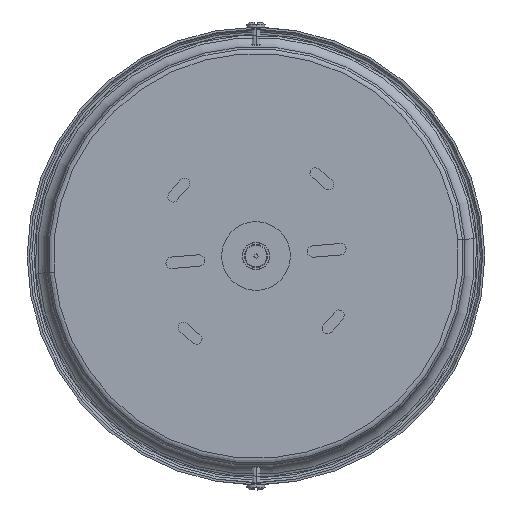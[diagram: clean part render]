
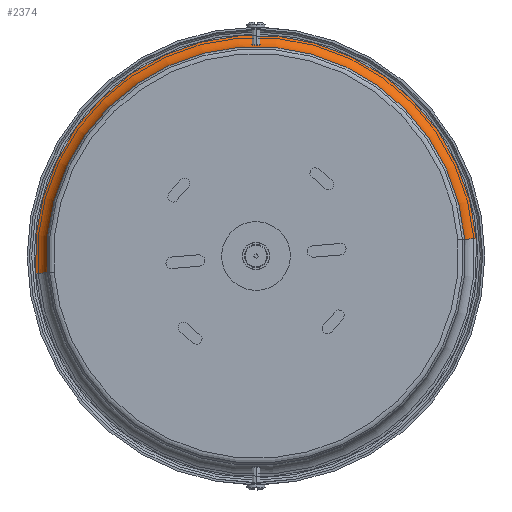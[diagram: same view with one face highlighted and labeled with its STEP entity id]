
A CAD part, front view. The second image highlights one B-rep face of the part: STEP entity #2374.
In plain terms, the highlighted toroidal (fillet/blend) face has major radius 98.9 mm and minor radius 7.4 mm.
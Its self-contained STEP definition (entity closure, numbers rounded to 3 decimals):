
#49 = VERTEX_POINT ( 'NONE', #13609 ) ;
#171 = CIRCLE ( 'NONE', #3427, 7.4 ) ;
#1500 = CARTESIAN_POINT ( 'NONE',  ( 98.9, 0., -8. ) ) ;
#1599 = DIRECTION ( 'NONE',  ( 0., -1., 0. ) ) ;
#2280 = EDGE_CURVE ( 'NONE', #2980, #49, #14016, .T. ) ;
#2374 = ADVANCED_FACE ( 'NONE', ( #13462 ), #6383, .F. ) ;
#2980 = VERTEX_POINT ( 'NONE', #3481 ) ;
#3038 = DIRECTION ( 'NONE',  ( 0., 0., 1. ) ) ;
#3413 = EDGE_CURVE ( 'NONE', #5212, #2980, #171, .T. ) ;
#3427 = AXIS2_PLACEMENT_3D ( 'NONE', #3922, #12045, #13215 ) ;
#3481 = CARTESIAN_POINT ( 'NONE',  ( -91.5, 0., -8. ) ) ;
#3922 = CARTESIAN_POINT ( 'NONE',  ( -98.9, 0., -8. ) ) ;
#3927 = DIRECTION ( 'NONE',  ( 0., 0., -1. ) ) ;
#4161 = DIRECTION ( 'NONE',  ( 1., 0., 0. ) ) ;
#4595 = DIRECTION ( 'NONE',  ( 1., 0., 0. ) ) ;
#4731 = EDGE_CURVE ( 'NONE', #12518, #49, #12124, .T. ) ;
#5212 = VERTEX_POINT ( 'NONE', #13911 ) ;
#5517 = ORIENTED_EDGE ( 'NONE', *, *, #3413, .T. ) ;
#6383 = TOROIDAL_SURFACE ( 'NONE', #7592, 98.9, 7.4 ) ;
#6750 = CARTESIAN_POINT ( 'NONE',  ( 96.5, 0., -1. ) ) ;
#6769 = DIRECTION ( 'NONE',  ( 0., 0., 1. ) ) ;
#7356 = EDGE_LOOP ( 'NONE', ( #14899, #5517, #13564, #8432 ) ) ;
#7592 = AXIS2_PLACEMENT_3D ( 'NONE', #13396, #12283, #7604 ) ;
#7604 = DIRECTION ( 'NONE',  ( 1., 0., 0. ) ) ;
#8296 = AXIS2_PLACEMENT_3D ( 'NONE', #10333, #6769, #4595 ) ;
#8432 = ORIENTED_EDGE ( 'NONE', *, *, #4731, .F. ) ;
#9063 = AXIS2_PLACEMENT_3D ( 'NONE', #12436, #3038, #4161 ) ;
#10333 = CARTESIAN_POINT ( 'NONE',  ( 0., 0., -1. ) ) ;
#11943 = EDGE_CURVE ( 'NONE', #5212, #12518, #13300, .T. ) ;
#12045 = DIRECTION ( 'NONE',  ( 0., 1., 0. ) ) ;
#12124 = CIRCLE ( 'NONE', #13937, 7.4 ) ;
#12283 = DIRECTION ( 'NONE',  ( 0., 0., 1. ) ) ;
#12436 = CARTESIAN_POINT ( 'NONE',  ( 0., 0., -8. ) ) ;
#12518 = VERTEX_POINT ( 'NONE', #6750 ) ;
#13215 = DIRECTION ( 'NONE',  ( -1., 0., 0. ) ) ;
#13300 = CIRCLE ( 'NONE', #8296, 96.5 ) ;
#13396 = CARTESIAN_POINT ( 'NONE',  ( 0., 0., -8. ) ) ;
#13462 = FACE_OUTER_BOUND ( 'NONE', #7356, .T. ) ;
#13564 = ORIENTED_EDGE ( 'NONE', *, *, #2280, .T. ) ;
#13609 = CARTESIAN_POINT ( 'NONE',  ( 91.5, 0., -8. ) ) ;
#13911 = CARTESIAN_POINT ( 'NONE',  ( -96.5, 0., -1. ) ) ;
#13937 = AXIS2_PLACEMENT_3D ( 'NONE', #1500, #1599, #3927 ) ;
#14016 = CIRCLE ( 'NONE', #9063, 91.5 ) ;
#14899 = ORIENTED_EDGE ( 'NONE', *, *, #11943, .F. ) ;
